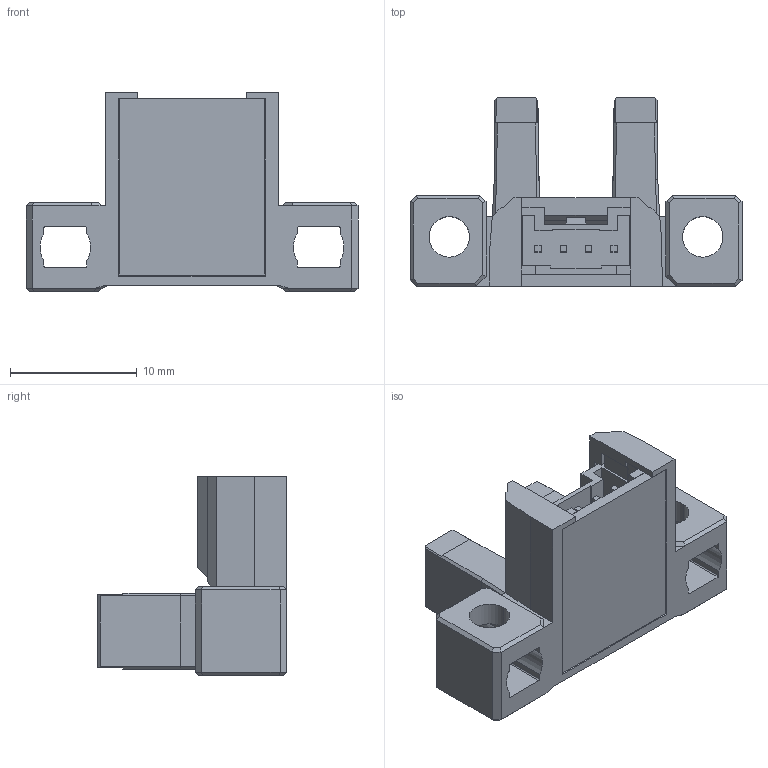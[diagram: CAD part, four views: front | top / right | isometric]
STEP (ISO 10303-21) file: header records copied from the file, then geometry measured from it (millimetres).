
FILE_DESCRIPTION (( 'STEP AP203' ), '1' );
FILE_NAME ('PU-L68.STEP', '2023-06-28T03:01:27', ( 'Windows User' ), ( 'P R C' ), 'SwSTEP 2.0', 'SolidWorks 2022', '' );
FILE_SCHEMA (( 'CONFIG_CONTROL_DESIGN' ));
Length unit declared in the file: millimetre
Products named in the file (7): 插件; PU-L68; 插针; SD1705284-PU-Y68公端插件-A0; SD2008753 PU-L68插件支架-A0; SD2008739-PU-68导光柱-A0; SD2008752 PU-L68壳体-A1
Assembly tree (9 placements, depth 3):
  PU-L68
    SD2008752 PU-L68壳体-A1
    SD2008753 PU-L68插件支架-A0
    SD2008739-PU-68导光柱-A0
    SD1705284-PU-Y68公端插件-A0
      插件
      插针  x4
Bounding box: 26.2 x 14.9 x 15.7 mm (x, y, z)
Volume: 1523.8 mm3; surface area: 3141.5 mm2
Topology: 8 solids, 8 shells, 508 faces, 1324 edges, 838 vertices
Faces by surface type: plane 454, cylinder 54
Entity records: 14508 total; most frequent: CARTESIAN_POINT 2428, ORIENTED_EDGE 2396, DIRECTION 2203, EDGE_CURVE 1198, LINE 1113, VECTOR 1113, VERTEX_POINT 766, AXIS2_PLACEMENT_3D 545
